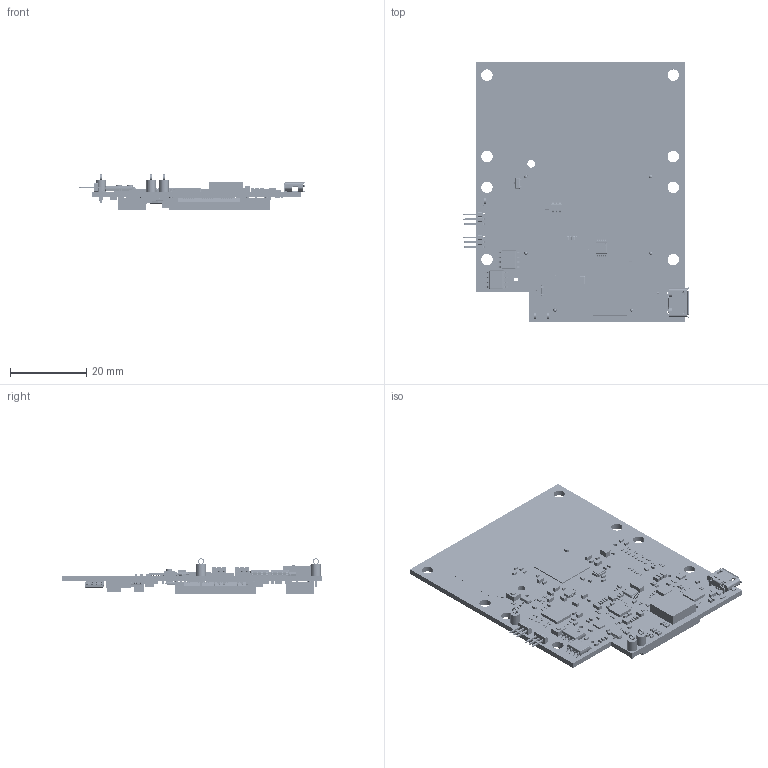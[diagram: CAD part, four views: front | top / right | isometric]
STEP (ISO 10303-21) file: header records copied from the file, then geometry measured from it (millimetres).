
FILE_DESCRIPTION(('Open CASCADE Model'),'2;1');
FILE_NAME('Open CASCADE Shape Model','2020-05-07T11:25:46',('Author'),( 'Open CASCADE'),'Open CASCADE STEP processor 6.8','Open CASCADE 6.8' ,'Unknown');
FILE_SCHEMA(('AUTOMOTIVE_DESIGN { 1 0 10303 214 1 1 1 1 }'));
Length unit declared in the file: millimetre
Products named in the file (662): PCB; Board; C99; Cap_CL05A226MQ5N6J8_0402_(1005_Metric); body; terminals; value; C98; C91; C90; TP12; Keystone_5001; Keystone5001_black; Keystone500x_wire; U16; DRB0008B; BODY-SON; FRAME-DRB0008B; FRAME-DRB0008B_3; FRAME-DRB0008B_4; FRAME-DRB0008B_5; FRAME-DRB0008B_6; FRAME-DRB0008B_7; FRAME-DRB0008B_8; FRAME-DRB0008B_9; FRAME-DRB0008B_10; FRAME-DRB0008B_11; C96; 6305698368; Extruded; 6305698176; C95; C97; C88; C87; 6305697984; 6305697792; C86; C93; 6305697600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
Assembly tree (1765 placements, depth 6):
  PCB
    Board
    C99
      Cap_CL05A226MQ5N6J8_0402_(1005_Metric)
        body
        terminals
        value
    C98
      Cap_CL05A226MQ5N6J8_0402_(1005_Metric)
        body
        terminals
        value
    C91
      Cap_CL05A226MQ5N6J8_0402_(1005_Metric)
        body
        terminals
        value
    C90
      Cap_CL05A226MQ5N6J8_0402_(1005_Metric)
        body
        terminals
        value
    TP12
      Keystone_5001
        Keystone5001_black
        Keystone500x_wire
    U16
      DRB0008B
        BODY-SON
        FRAME-DRB0008B
          FRAME-DRB0008B_3
          FRAME-DRB0008B_4
          FRAME-DRB0008B_5
          FRAME-DRB0008B_6
          FRAME-DRB0008B_7
          FRAME-DRB0008B_8
          FRAME-DRB0008B_9
          FRAME-DRB0008B_10
          FRAME-DRB0008B_11
    C96
      6305698368  x2
        Extruded
      6305698176
        Extruded
    C95
      6305698368  x2
        Extruded
      6305698176
        Extruded
    C97
      6305698368  x2
        Extruded
      6305698176
        Extruded
    C88
      6305698368  x2
        Extruded
      6305698176
        Extruded
    C87
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Bounding box: 59.42 x 68.46 x 9.33 mm (x, y, z)
Volume: 6981.8 mm3; surface area: 16505 mm2
Topology: 1525 solids, 1525 shells, 21634 faces, 55791 edges, 36629 vertices
Faces by surface type: plane 16073, cylinder 2864, bspline 2049, sphere 612, torus 24, revolution 12
Full cylindrical faces by diameter (mm): 0.25 x2, 0.4 x1, 0.6 x6, 0.85 x2, 1.016 x4, 1.02 x6, 2.032 x1, 2.5 x3, 3 x8
Entity records: 245382 total; most frequent: CARTESIAN_POINT 48425, ORIENTED_EDGE 36094, DIRECTION 34025, EDGE_CURVE 18047, LINE 14351, VECTOR 14351, VERTEX_POINT 11864, AXIS2_PLACEMENT_3D 9835
